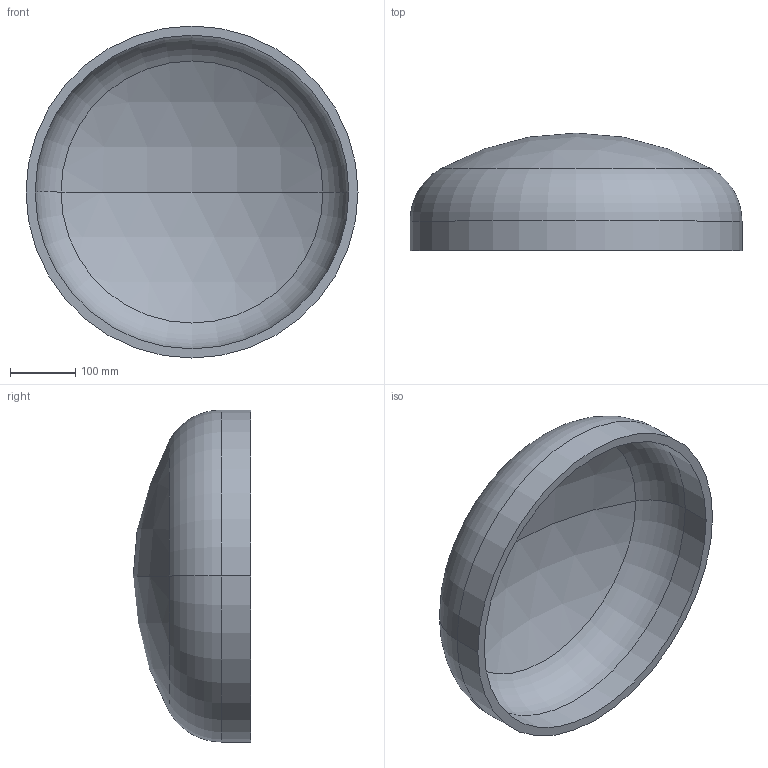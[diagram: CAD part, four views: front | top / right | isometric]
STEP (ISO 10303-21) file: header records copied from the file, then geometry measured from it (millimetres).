
FILE_DESCRIPTION (( 'STEP AP203' ), '1' );
FILE_NAME ('DIN 28013 Korbbogenform_-_Boden DIN 28013 - 508 x 45 - I - s=14.step', '2016-07-01T07:52:34', ( '' ), ( '' ), 'SwSTEP 2.0', 'SolidWorks 2013', '' );
FILE_SCHEMA (( 'CONFIG_CONTROL_DESIGN' ));
Length unit declared in the file: millimetre
Products named in the file (1): DIN 28013 Korbbogenform_-_Boden DIN 28013 - 508 x 45 - I - s=14
Bounding box: 508 x 179.8 x 508 mm (x, y, z)
Volume: 4766497.2 mm3; surface area: 703065.7 mm2
Topology: 1 solids, 1 shells, 13 faces, 24 edges, 14 vertices
Faces by surface type: torus 4, cylinder 4, sphere 4, plane 1
Entity records: 407 total; most frequent: DIRECTION 72, CARTESIAN_POINT 52, ORIENTED_EDGE 48, AXIS2_PLACEMENT_3D 34, EDGE_CURVE 24, CIRCLE 20, VERTEX_POINT 14, EDGE_LOOP 14
